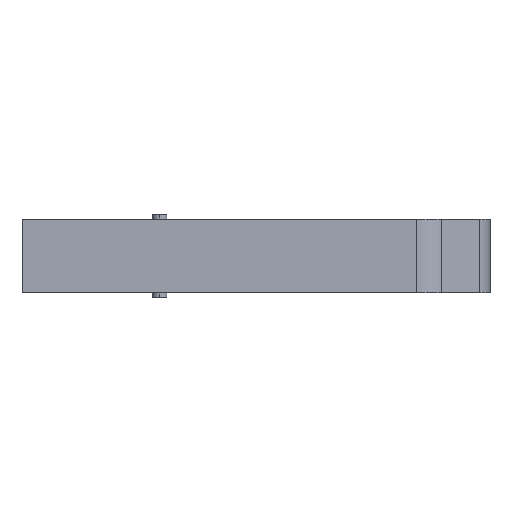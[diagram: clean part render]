
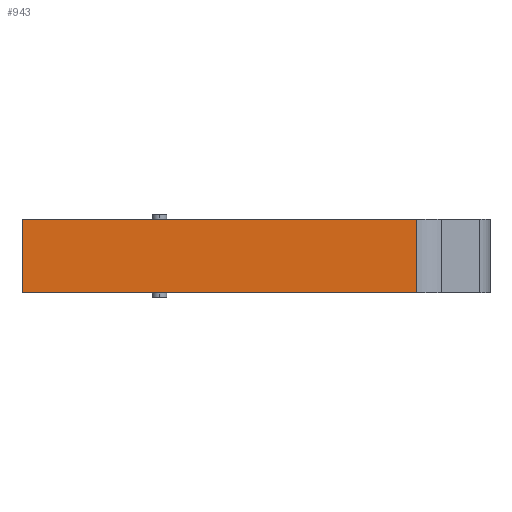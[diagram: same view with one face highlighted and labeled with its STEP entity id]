
A CAD part, left-side view. The second image highlights one B-rep face of the part: STEP entity #943.
In plain terms, the highlighted planar face has unit normal (-1, 0, 0).
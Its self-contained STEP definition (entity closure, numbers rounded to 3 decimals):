
#100 = ORIENTED_EDGE ( 'NONE', *, *, #642, .T. ) ;
#101 = ORIENTED_EDGE ( 'NONE', *, *, #670, .T. ) ;
#102 = ORIENTED_EDGE ( 'NONE', *, *, #653, .F. ) ;
#103 = ORIENTED_EDGE ( 'NONE', *, *, #669, .T. ) ;
#283 = VERTEX_POINT ( 'NONE', #1730 ) ;
#642 = EDGE_CURVE ( 'NONE', #2975, #830, #1328, .T. ) ;
#653 = EDGE_CURVE ( 'NONE', #283, #814, #1570, .T. ) ;
#669 = EDGE_CURVE ( 'NONE', #283, #2975, #1600, .T. ) ;
#670 = EDGE_CURVE ( 'NONE', #830, #814, #1602, .T. ) ;
#814 = VERTEX_POINT ( 'NONE', #2084 ) ;
#830 = VERTEX_POINT ( 'NONE', #2100 ) ;
#943 = ADVANCED_FACE ( 'NONE', ( #2391 ), #2556, .F. ) ;
#1328 = LINE ( 'NONE', #1951, #1331 ) ;
#1331 = VECTOR ( 'NONE', #1953, 1000. ) ;
#1570 = LINE ( 'NONE', #1965, #1572 ) ;
#1572 = VECTOR ( 'NONE', #1973, 1000. ) ;
#1600 = LINE ( 'NONE', #2015, #1603 ) ;
#1602 = LINE ( 'NONE', #2017, #1605 ) ;
#1603 = VECTOR ( 'NONE', #2016, 1000. ) ;
#1605 = VECTOR ( 'NONE', #2018, 1000. ) ;
#1730 = CARTESIAN_POINT ( 'NONE',  ( 0., 158.2, 12.5 ) ) ;
#1951 = CARTESIAN_POINT ( 'NONE',  ( 0., 0., -12.5 ) ) ;
#1953 = DIRECTION ( 'NONE',  ( 0., -1., 0. ) ) ;
#1965 = CARTESIAN_POINT ( 'NONE',  ( 0., 0., 12.5 ) ) ;
#1973 = DIRECTION ( 'NONE',  ( 0., -1., 0. ) ) ;
#2015 = CARTESIAN_POINT ( 'NONE',  ( 0., 158.2, 12.5 ) ) ;
#2016 = DIRECTION ( 'NONE',  ( 0., 0., -1. ) ) ;
#2017 = CARTESIAN_POINT ( 'NONE',  ( 0., 24.971, 12.5 ) ) ;
#2018 = DIRECTION ( 'NONE',  ( 0., 0., 1. ) ) ;
#2084 = CARTESIAN_POINT ( 'NONE',  ( 0., 24.971, 12.5 ) ) ;
#2100 = CARTESIAN_POINT ( 'NONE',  ( 0., 24.971, -12.5 ) ) ;
#2238 = AXIS2_PLACEMENT_3D ( 'NONE', #2559, #2560, #2561 ) ;
#2391 = FACE_OUTER_BOUND ( 'NONE', #2986, .T. ) ;
#2556 = PLANE ( 'NONE',  #2238 ) ;
#2559 = CARTESIAN_POINT ( 'NONE',  ( 0., 0., 12.5 ) ) ;
#2560 = DIRECTION ( 'NONE',  ( 1., 0., 0. ) ) ;
#2561 = DIRECTION ( 'NONE',  ( 0., 0., -1. ) ) ;
#2787 = CARTESIAN_POINT ( 'NONE',  ( 0., 158.2, -12.5 ) ) ;
#2975 = VERTEX_POINT ( 'NONE', #2787 ) ;
#2986 = EDGE_LOOP ( 'NONE', ( #100, #101, #102, #103 ) ) ;
